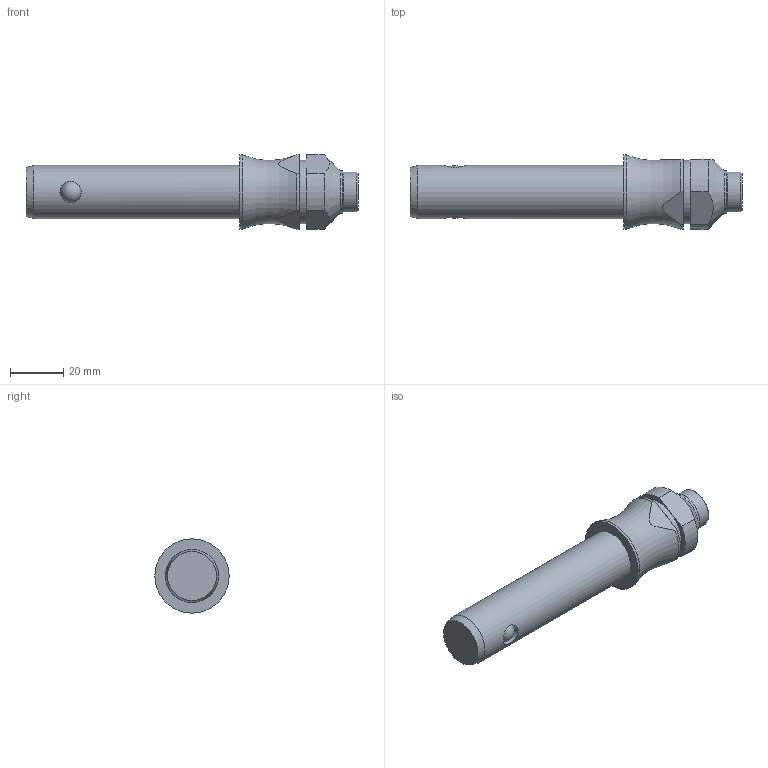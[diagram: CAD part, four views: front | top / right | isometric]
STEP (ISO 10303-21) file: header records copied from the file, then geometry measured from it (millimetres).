
FILE_DESCRIPTION( ( 'STEP AP203' ), '1' );
FILE_NAME( 'C:/Temp/Ganter_Step_05_03_2020/data/3_1/gn113_3/Stainless Steel-Ball lock pin GN 113.3-20-60 (activated).stp', '2020-03-12T08:19:02', ( 'License CC BY-ND 4.0' ), ( 'CADENAS' ), ' ', 'PARTsolutions', ' ' );
FILE_SCHEMA( ( 'CONFIG_CONTROL_DESIGN' ) );
Length unit declared in the file: millimetre
Products named in the file (1): _Stainless Steel-Ball lock pin GN 113.3-20-60 (activated)
Bounding box: 125.05 x 28 x 28 mm (x, y, z)
Volume: 44855.3 mm3; surface area: 9788.1 mm2
Topology: 1 solids, 1 shells, 31 faces, 76 edges, 47 vertices
Faces by surface type: cylinder 13, plane 11, cone 4, sphere 2, torus 1
Full cylindrical faces by diameter (mm): 8 x2, 15 x1, 16 x1, 20 x1, 24 x1, 28 x1
Entity records: 1054 total; most frequent: CARTESIAN_POINT 390, DIRECTION 134, ORIENTED_EDGE 104, AXIS2_PLACEMENT_3D 58, EDGE_CURVE 52, EDGE_LOOP 48, VERTEX_POINT 40, FACE_OUTER_BOUND 39
